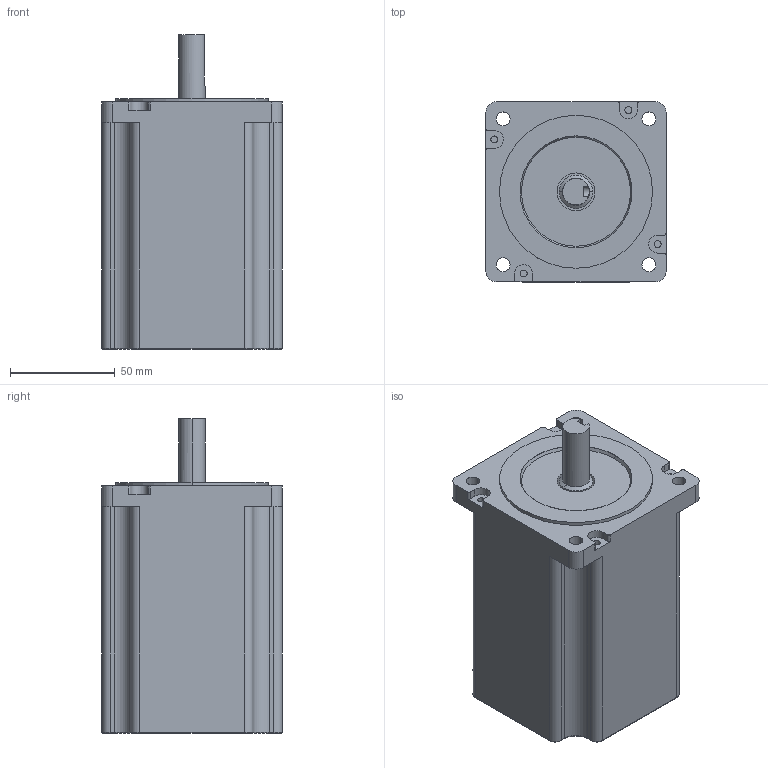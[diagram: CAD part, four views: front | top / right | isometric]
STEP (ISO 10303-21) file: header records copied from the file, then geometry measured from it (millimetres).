
FILE_DESCRIPTION((''),'2;1');
FILE_NAME('ABCD0E94C2B2YBMM_1','2021-11-16T16:05:47',('qingl'),(''),'CREO PARAMETRIC BY PTC INC, 2019224','CREO PARAMETRIC BY PTC INC, 2019224','');
FILE_SCHEMA(('CONFIG_CONTROL_DESIGN'));
Length unit declared in the file: millimetre
Products named in the file (1): ABCD0E94C2B2YBMM_1
Bounding box: 86 x 86 x 150 mm (x, y, z)
Volume: 793478.3 mm3; surface area: 56770.6 mm2
Topology: 1 solids, 1 shells, 286 faces, 783 edges, 513 vertices
Faces by surface type: cylinder 215, plane 47, torus 12, bspline 8, cone 4
Entity records: 13947 total; most frequent: CARTESIAN_POINT 7082, ORIENTED_EDGE 1566, DIRECTION 1223, EDGE_CURVE 783, VERTEX_POINT 513, AXIS2_PLACEMENT_3D 460, EDGE_LOOP 308, VECTOR 303
